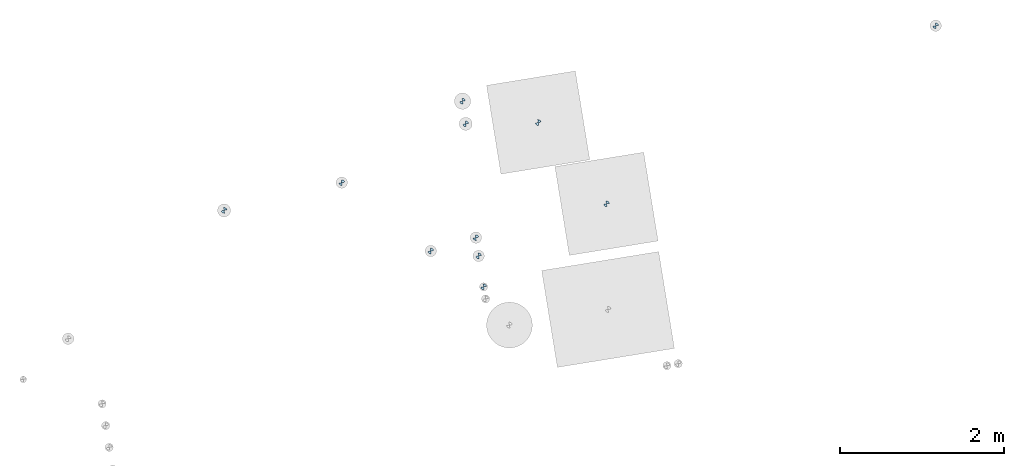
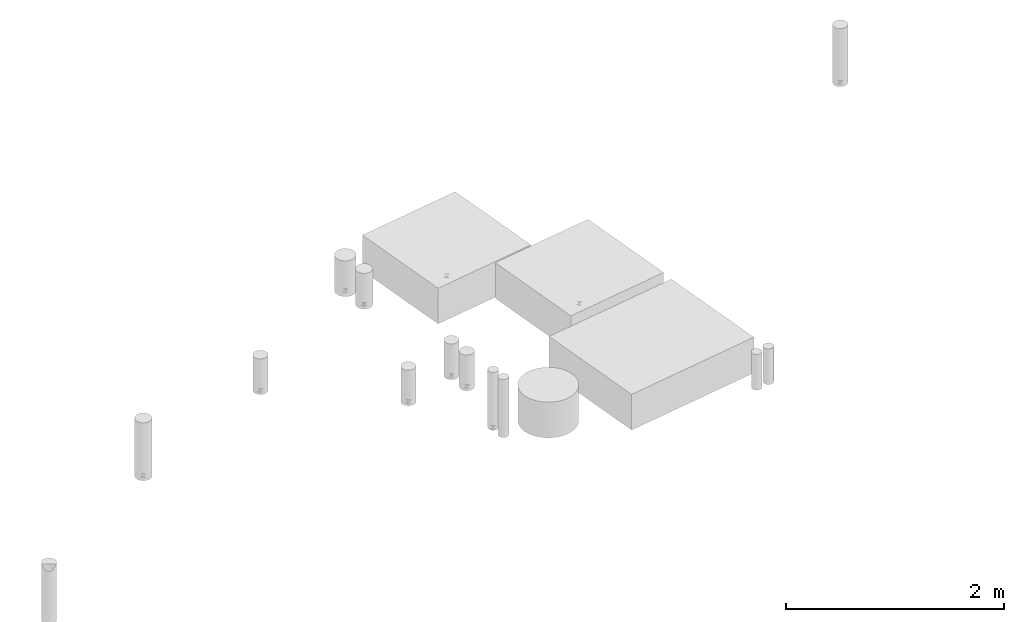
# One storey, part 3 of 4: 11 slabs.
"""IFC2X3 building model written with IfcOpenShell, lengths in millimetres."""

from ifc_helpers import new_model, entity, si_unit, converted_unit, derived_unit, direction, frame, frame_2d, origin, origin_with_axes, place, context, subcontext, project, spatial, polyline, circle_curve, parameter, trimmed, segment, composite_curve, outline, extrude, material, type_object, element, save


model = new_model("IFC2X3")

# Units and contexts
model_context = context("Model", 3, precision=0.01, world=origin(), true_north=direction((6.12323399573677e-17, 1.0)))
plan_context = context("Plan", 3, precision=1e-05, world=origin_with_axes())
body_context = subcontext(model_context, "Body", "Model", "MODEL_VIEW")
ifc_project = project(units=[converted_unit("PLANEANGLEUNIT", "DEGREE", entity("IfcPositiveLengthMeasure", 0.0174532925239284), si_unit("PLANEANGLEUNIT", "RADIAN"), dimensions=[0, 0, 0, 0, 0, 0, 0]), si_unit("AREAUNIT", "SQUARE_METRE"), si_unit("LENGTHUNIT", "METRE", prefix="MILLI"), si_unit("MASSUNIT", "GRAM", prefix="KILO"), si_unit("POWERUNIT", "WATT"), si_unit("PRESSUREUNIT", "PASCAL", prefix="KILO"), si_unit("FORCEUNIT", "NEWTON", prefix="KILO"), si_unit("ELECTRICVOLTAGEUNIT", "VOLT"), si_unit("ELECTRICCURRENTUNIT", "AMPERE"), si_unit("THERMODYNAMICTEMPERATUREUNIT", "DEGREE_CELSIUS"), si_unit("TIMEUNIT", "SECOND"), si_unit("VOLUMEUNIT", "CUBIC_METRE"), derived_unit("LINEARVELOCITYUNIT", [(si_unit("LENGTHUNIT", "METRE"), 1), (si_unit("TIMEUNIT", "SECOND"), -1)]), derived_unit("VOLUMETRICFLOWRATEUNIT", [(si_unit("VOLUMEUNIT", "CUBIC_METRE"), 1), (si_unit("TIMEUNIT", "SECOND"), -1)]), derived_unit("THERMALTRANSMITTANCEUNIT", [(si_unit("POWERUNIT", "WATT"), 1), (si_unit("THERMODYNAMICTEMPERATUREUNIT", "KELVIN"), -1), (si_unit("AREAUNIT", "SQUARE_METRE"), -1)]), derived_unit("SOUNDPRESSUREUNIT", [(si_unit("PRESSUREUNIT", "PASCAL"), 1)])], contexts=[model_context, plan_context])

# Site, building, storey
site_placement = place(None, frame((-0.00071070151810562, 0.00438415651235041, 0.0), z_axis=(0.0, 0.0, 1.0), x_axis=(-0.160236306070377, 0.987078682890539, 0.0)))
site = spatial("IfcSite", under=ifc_project, at=site_placement, Name="Default", CompositionType="ELEMENT")
building_placement = place(site_placement, origin_with_axes())
building = spatial("IfcBuilding", under=site, at=building_placement, CompositionType="ELEMENT")
storey_placement = place(building_placement, frame((0.0, 0.0, 50999.9999999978), z_axis=(0.0, 0.0, 1.0), x_axis=(1.0, 0.0, 0.0)))
storey = spatial("IfcBuildingStorey", under=building, at=storey_placement, Name="Nivå D", CompositionType="ELEMENT", Elevation=50999.9999999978)

# Slabs
ifc_material = material(Name="Black")
slab_type_1 = type_object("IfcSlabType", Name="SurveyMarker:Custom", PredefinedType="BASESLAB", material=ifc_material)
slab_1_placement = place(storey_placement, origin_with_axes())
element("IfcSlab", 1, at=slab_1_placement, inside=storey, type_object=slab_type_1, Name="SurveyMarker:Custom", ObjectType="SurveyMarker:Custom", PredefinedType="BASESLAB", context=body_context, shape_type="SweptSolid", body=[
    extrude(outline(composite_curve([segment(polyline([(-11.6666666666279, -11.6666666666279), (23.3333333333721, -11.6666666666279)]), True, "CONTINUOUS"), segment(trimmed(circle_curve(frame_2d((-11.6666666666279, -11.6666666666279), x_axis=(0.0, 1.0)), 35.0), [parameter(269.999999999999)], [parameter(359.999999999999)], True, "PARAMETER"), True, "CONTINUOUS"), segment(polyline([(-11.6666666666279, 23.3333333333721), (-11.6666666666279, -11.6666666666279)]), True, "CONTINUOUS")], self_intersect=False)), frame((779155.626277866, -594790.854460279, -400.0), z_axis=(0.0, 0.0, 1.0), x_axis=(0.0, -1.0, 0.0)), (0.0, 0.0, 1.0), 0.799999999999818),
    extrude(outline(composite_curve([segment(polyline([(-11.6666666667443, -11.6666666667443), (23.3333333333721, -11.6666666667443)]), True, "CONTINUOUS"), segment(trimmed(circle_curve(frame_2d((-11.6666666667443, -11.6666666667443), x_axis=(0.0, 1.0)), 35.0), [parameter(269.999999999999)], [parameter(359.999999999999)], True, "PARAMETER"), True, "CONTINUOUS"), segment(polyline([(-11.6666666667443, 23.3333333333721), (-11.6666666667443, -11.6666666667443)]), True, "CONTINUOUS")], self_intersect=False)), frame((779132.292944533, -594767.521126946, -400.0), z_axis=(0.0, 0.0, 1.0), x_axis=(0.0, 1.0, 0.0)), (0.0, 0.0, 1.0), 0.799999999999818),
])
slab_2_placement = place(storey_placement, origin_with_axes())
element("IfcSlab", 2, at=slab_2_placement, inside=storey, type_object=slab_type_1, Name="SurveyMarker:Custom", ObjectType="SurveyMarker:Custom", PredefinedType="BASESLAB", context=body_context, shape_type="SweptSolid", body=[
    extrude(outline(composite_curve([segment(polyline([(-11.6666666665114, -11.6666666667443), (23.3333333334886, -11.6666666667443)]), True, "CONTINUOUS"), segment(trimmed(circle_curve(frame_2d((-11.6666666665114, -11.6666666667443), x_axis=(0.0, 1.0)), 35.0), [parameter(269.999999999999)], [parameter(359.999999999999)], True, "PARAMETER"), True, "CONTINUOUS"), segment(polyline([(-11.6666666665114, 23.3333333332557), (-11.6666666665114, -11.6666666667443)]), True, "CONTINUOUS")], self_intersect=False)), frame((777536.253455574, -594687.746670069, -400.0), z_axis=(0.0, 0.0, 1.0), x_axis=(0.0, -1.0, 0.0)), (0.0, 0.0, 1.0), 0.799999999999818),
    extrude(outline(composite_curve([segment(polyline([(-11.6666666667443, -11.6666666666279), (23.3333333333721, -11.6666666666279)]), True, "CONTINUOUS"), segment(trimmed(circle_curve(frame_2d((-11.6666666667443, -11.6666666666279), x_axis=(0.0, 1.0)), 35.0), [parameter(269.999999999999)], [parameter(359.999999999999)], True, "PARAMETER"), True, "CONTINUOUS"), segment(polyline([(-11.6666666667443, 23.3333333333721), (-11.6666666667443, -11.6666666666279)]), True, "CONTINUOUS")], self_intersect=False)), frame((777512.920122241, -594664.413336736, -400.0), z_axis=(0.0, 0.0, 1.0), x_axis=(0.0, 1.0, 0.0)), (0.0, 0.0, 1.0), 0.799999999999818),
])
slab_3_placement = place(storey_placement, origin_with_axes())
element("IfcSlab", 3, at=slab_3_placement, inside=storey, type_object=slab_type_1, Name="SurveyMarker:Custom", ObjectType="SurveyMarker:Custom", PredefinedType="BASESLAB", context=body_context, shape_type="SweptSolid", body=[
    extrude(outline(composite_curve([segment(polyline([(-11.6666666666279, -11.6666666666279), (23.3333333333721, -11.6666666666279)]), True, "CONTINUOUS"), segment(trimmed(circle_curve(frame_2d((-11.6666666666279, -11.6666666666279), x_axis=(0.0, 1.0)), 35.0), [parameter(269.999999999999)], [parameter(359.999999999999)], True, "PARAMETER"), True, "CONTINUOUS"), segment(polyline([(-11.6666666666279, 23.3333333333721), (-11.6666666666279, -11.6666666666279)]), True, "CONTINUOUS")], self_intersect=False)), frame((777762.527625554, -594690.493315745, -400.0), z_axis=(0.0, 0.0, 1.0), x_axis=(0.0, -1.0, 0.0)), (0.0, 0.0, 1.0), 0.799999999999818),
    extrude(outline(composite_curve([segment(polyline([(-11.6666666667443, -11.6666666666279), (23.3333333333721, -11.6666666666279)]), True, "CONTINUOUS"), segment(trimmed(circle_curve(frame_2d((-11.6666666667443, -11.6666666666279), x_axis=(0.0, 1.0)), 35.0), [parameter(269.999999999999)], [parameter(359.999999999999)], True, "PARAMETER"), True, "CONTINUOUS"), segment(polyline([(-11.6666666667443, 23.3333333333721), (-11.6666666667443, -11.6666666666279)]), True, "CONTINUOUS")], self_intersect=False)), frame((777739.19429222, -594667.159982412, -400.0), z_axis=(0.0, 0.0, 1.0), x_axis=(0.0, 1.0, 0.0)), (0.0, 0.0, 1.0), 0.799999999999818),
])
slab_4_placement = place(storey_placement, origin_with_axes())
element("IfcSlab", 4, at=slab_4_placement, inside=storey, type_object=slab_type_1, Name="SurveyMarker:Custom", ObjectType="SurveyMarker:Custom", PredefinedType="BASESLAB", context=body_context, shape_type="SweptSolid", body=[
    extrude(outline(composite_curve([segment(polyline([(-11.6666666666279, -11.6666666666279), (23.3333333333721, -11.6666666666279)]), True, "CONTINUOUS"), segment(trimmed(circle_curve(frame_2d((-11.6666666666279, -11.6666666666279), x_axis=(0.0, 1.0)), 35.0), [parameter(269.999999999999)], [parameter(359.999999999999)], True, "PARAMETER"), True, "CONTINUOUS"), segment(polyline([(-11.6666666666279, 23.3333333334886), (-11.6666666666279, -11.6666666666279)]), True, "CONTINUOUS")], self_intersect=False)), frame((778689.286310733, -593179.647165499, -400.0), z_axis=(0.0, 0.0, 1.0), x_axis=(0.0, -1.0, 0.0)), (0.0, 0.0, 1.0), 0.799999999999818),
    extrude(outline(composite_curve([segment(polyline([(-11.6666666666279, -11.6666666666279), (23.3333333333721, -11.6666666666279)]), True, "CONTINUOUS"), segment(trimmed(circle_curve(frame_2d((-11.6666666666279, -11.6666666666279), x_axis=(0.0, 1.0)), 35.0), [parameter(269.999999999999)], [parameter(359.999999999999)], True, "PARAMETER"), True, "CONTINUOUS"), segment(polyline([(-11.6666666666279, 23.3333333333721), (-11.6666666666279, -11.6666666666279)]), True, "CONTINUOUS")], self_intersect=False)), frame((778665.9529774, -593156.313832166, -400.0), z_axis=(0.0, 0.0, 1.0), x_axis=(0.0, 1.0, 0.0)), (0.0, 0.0, 1.0), 0.799999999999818),
])
slab_5_placement = place(storey_placement, origin_with_axes())
element("IfcSlab", 5, at=slab_5_placement, inside=storey, type_object=slab_type_1, Name="SurveyMarker:Custom", ObjectType="SurveyMarker:Custom", PredefinedType="BASESLAB", context=body_context, shape_type="SweptSolid", body=[
    extrude(outline(composite_curve([segment(polyline([(-11.6666666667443, -11.6666666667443), (23.3333333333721, -11.6666666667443)]), True, "CONTINUOUS"), segment(trimmed(circle_curve(frame_2d((-11.6666666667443, -11.6666666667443), x_axis=(0.0, 1.0)), 35.0), [parameter(269.999999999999)], [parameter(359.999999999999)], True, "PARAMETER"), True, "CONTINUOUS"), segment(polyline([(-11.6666666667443, 23.3333333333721), (-11.6666666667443, -11.6666666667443)]), True, "CONTINUOUS")], self_intersect=False)), frame((779435.564173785, -594796.751444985, -400.0), z_axis=(0.0, 0.0, 1.0), x_axis=(0.0, -1.0, 0.0)), (0.0, 0.0, 1.0), 0.799999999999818),
    extrude(outline(composite_curve([segment(polyline([(-11.6666666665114, -11.6666666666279), (23.3333333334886, -11.6666666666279)]), True, "CONTINUOUS"), segment(trimmed(circle_curve(frame_2d((-11.6666666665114, -11.6666666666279), x_axis=(0.0, 1.0)), 35.0), [parameter(269.999999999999)], [parameter(359.999999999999)], True, "PARAMETER"), True, "CONTINUOUS"), segment(polyline([(-11.6666666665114, 23.3333333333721), (-11.6666666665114, -11.6666666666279)]), True, "CONTINUOUS")], self_intersect=False)), frame((779412.230840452, -594773.418111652, -400.0), z_axis=(0.0, 0.0, 1.0), x_axis=(0.0, 1.0, 0.0)), (0.0, 0.0, 1.0), 0.799999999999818),
])
slab_6_placement = place(storey_placement, origin_with_axes())
element("IfcSlab", 6, at=slab_6_placement, inside=storey, type_object=slab_type_1, Name="SurveyMarker:Custom", ObjectType="SurveyMarker:Custom", PredefinedType="BASESLAB", context=body_context, shape_type="SweptSolid", body=[
    extrude(outline(composite_curve([segment(polyline([(-11.6666666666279, -11.6666666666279), (23.3333333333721, -11.6666666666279)]), True, "CONTINUOUS"), segment(trimmed(circle_curve(frame_2d((-11.6666666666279, -11.6666666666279), x_axis=(0.0, 1.0)), 35.0), [parameter(269.999999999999)], [parameter(359.999999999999)], True, "PARAMETER"), True, "CONTINUOUS"), segment(polyline([(-11.6666666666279, 23.3333333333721), (-11.6666666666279, -11.6666666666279)]), True, "CONTINUOUS")], self_intersect=False)), frame((778584.286310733, -591704.375782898, -650.0), z_axis=(0.0, 0.0, 1.0), x_axis=(0.0, -1.0, 0.0)), (0.0, 0.0, 1.0), 0.799999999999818),
    extrude(outline(composite_curve([segment(polyline([(-11.6666666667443, -11.6666666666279), (23.3333333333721, -11.6666666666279)]), True, "CONTINUOUS"), segment(trimmed(circle_curve(frame_2d((-11.6666666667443, -11.6666666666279), x_axis=(0.0, 1.0)), 35.0), [parameter(269.999999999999)], [parameter(359.999999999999)], True, "PARAMETER"), True, "CONTINUOUS"), segment(polyline([(-11.6666666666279, 23.3333333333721), (-11.6666666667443, -11.6666666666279)]), True, "CONTINUOUS")], self_intersect=False)), frame((778560.9529774, -591681.042449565, -650.0), z_axis=(0.0, 0.0, 1.0), x_axis=(0.0, 1.0, 0.0)), (0.0, 0.0, 1.0), 0.799999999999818),
])
slab_7_placement = place(storey_placement, origin_with_axes())
element("IfcSlab", 7, at=slab_7_placement, inside=storey, type_object=slab_type_1, Name="SurveyMarker:Custom", ObjectType="SurveyMarker:Custom", PredefinedType="BASESLAB", context=body_context, shape_type="SweptSolid", body=[
    extrude(outline(composite_curve([segment(polyline([(-11.6666666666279, -11.6666666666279), (23.3333333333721, -11.6666666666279)]), True, "CONTINUOUS"), segment(trimmed(circle_curve(frame_2d((-11.6666666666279, -11.6666666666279), x_axis=(0.0, 1.0)), 35.0), [parameter(269.999999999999)], [parameter(359.999999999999)], True, "PARAMETER"), True, "CONTINUOUS"), segment(polyline([(-11.6666666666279, 23.3333333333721), (-11.6666666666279, -11.6666666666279)]), True, "CONTINUOUS")], self_intersect=False)), frame((777689.286310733, -594119.647165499, -400.0), z_axis=(0.0, 0.0, 1.0), x_axis=(0.0, -1.0, 0.0)), (0.0, 0.0, 1.0), 0.799999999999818),
    extrude(outline(composite_curve([segment(polyline([(-11.6666666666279, -11.6666666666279), (23.3333333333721, -11.6666666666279)]), True, "CONTINUOUS"), segment(trimmed(circle_curve(frame_2d((-11.6666666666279, -11.6666666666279), x_axis=(0.0, 1.0)), 35.0), [parameter(269.999999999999)], [parameter(359.999999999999)], True, "PARAMETER"), True, "CONTINUOUS"), segment(polyline([(-11.6666666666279, 23.3333333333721), (-11.6666666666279, -11.6666666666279)]), True, "CONTINUOUS")], self_intersect=False)), frame((777665.9529774, -594096.313832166, -400.0), z_axis=(0.0, 0.0, 1.0), x_axis=(0.0, 1.0, 0.0)), (0.0, 0.0, 1.0), 0.799999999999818),
])
slab_8_placement = place(storey_placement, origin_with_axes())
element("IfcSlab", 8, at=slab_8_placement, inside=storey, type_object=slab_type_1, Name="SurveyMarker:Custom", ObjectType="SurveyMarker:Custom", PredefinedType="BASESLAB", context=body_context, shape_type="SweptSolid", body=[
    extrude(outline(composite_curve([segment(polyline([(-11.6666666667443, -11.6666666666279), (23.3333333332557, -11.6666666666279)]), True, "CONTINUOUS"), segment(trimmed(circle_curve(frame_2d((-11.6666666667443, -11.6666666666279), x_axis=(0.0, 1.0)), 35.0), [parameter(269.999999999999)], [parameter(359.999999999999)], True, "PARAMETER"), True, "CONTINUOUS"), segment(polyline([(-11.6666666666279, 23.3333333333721), (-11.6666666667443, -11.6666666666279)]), True, "CONTINUOUS")], self_intersect=False)), frame((779419.227272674, -600655.475817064, -650.0), z_axis=(0.0, 0.0, 1.0), x_axis=(0.0, -1.0, 0.0)), (0.0, 0.0, 1.0), 0.799999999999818),
    extrude(outline(composite_curve([segment(polyline([(-11.6666666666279, -11.6666666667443), (23.3333333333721, -11.6666666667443)]), True, "CONTINUOUS"), segment(trimmed(circle_curve(frame_2d((-11.6666666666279, -11.6666666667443), x_axis=(0.0, 1.0)), 35.0), [parameter(269.999999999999)], [parameter(359.999999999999)], True, "PARAMETER"), True, "CONTINUOUS"), segment(polyline([(-11.6666666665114, 23.3333333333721), (-11.6666666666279, -11.6666666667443)]), True, "CONTINUOUS")], self_intersect=False)), frame((779395.893939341, -600632.142483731, -650.0), z_axis=(0.0, 0.0, 1.0), x_axis=(0.0, 1.0, 0.0)), (0.0, 0.0, 1.0), 0.799999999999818),
])
slab_9_placement = place(storey_placement, origin_with_axes())
element("IfcSlab", 9, at=slab_9_placement, inside=storey, type_object=slab_type_1, Name="SurveyMarker:Custom", ObjectType="SurveyMarker:Custom", PredefinedType="BASESLAB", context=body_context, shape_type="SweptSolid", body=[
    extrude(outline(composite_curve([segment(polyline([(-11.6666666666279, -11.6666666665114), (23.3333333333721, -11.6666666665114)]), True, "CONTINUOUS"), segment(trimmed(circle_curve(frame_2d((-11.6666666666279, -11.6666666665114), x_axis=(0.0, 1.0)), 35.0), [parameter(269.999999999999)], [parameter(359.999999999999)], True, "PARAMETER"), True, "CONTINUOUS"), segment(polyline([(-11.6666666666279, 23.3333333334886), (-11.6666666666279, -11.6666666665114)]), True, "CONTINUOUS")], self_intersect=False)), frame((777153.933541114, -594687.772969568, -650.0), z_axis=(0.0, 0.0, 1.0), x_axis=(0.0, -1.0, 0.0)), (0.0, 0.0, 1.0), 0.799999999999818),
    extrude(outline(composite_curve([segment(polyline([(-11.6666666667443, -11.6666666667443), (23.3333333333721, -11.6666666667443)]), True, "CONTINUOUS"), segment(trimmed(circle_curve(frame_2d((-11.6666666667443, -11.6666666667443), x_axis=(0.0, 1.0)), 35.0), [parameter(269.999999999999)], [parameter(359.999999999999)], True, "PARAMETER"), True, "CONTINUOUS"), segment(polyline([(-11.6666666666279, 23.3333333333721), (-11.6666666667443, -11.6666666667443)]), True, "CONTINUOUS")], self_intersect=False)), frame((777130.60020778, -594664.439636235, -650.0), z_axis=(0.0, 0.0, 1.0), x_axis=(0.0, 1.0, 0.0)), (0.0, 0.0, 1.0), 0.799999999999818),
])
slab_type_2 = type_object("IfcSlabType", Name="SurveyMarker rektangulær:Custom", PredefinedType="BASESLAB", material=ifc_material)
slab_10_placement = place(storey_placement, origin_with_axes())
element("IfcSlab", 10, at=slab_10_placement, inside=storey, type_object=slab_type_2, Name="SurveyMarker rektangulær:Custom", ObjectType="SurveyMarker rektangulær:Custom", PredefinedType="BASESLAB", context=body_context, shape_type="SweptSolid", body=[
    extrude(outline(composite_curve([segment(polyline([(-11.6666666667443, -11.6666666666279), (23.3333333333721, -11.6666666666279)]), True, "CONTINUOUS"), segment(trimmed(circle_curve(frame_2d((-11.6666666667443, -11.6666666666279), x_axis=(0.0, 1.0)), 35.0), [parameter(269.999999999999)], [parameter(359.999999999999)], True, "PARAMETER"), True, "CONTINUOUS"), segment(polyline([(-11.6666666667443, 23.3333333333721), (-11.6666666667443, -11.6666666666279)]), True, "CONTINUOUS")], self_intersect=False)), frame((777914.676336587, -596333.199681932, -400.0), z_axis=(0.0, 0.0, 1.0), x_axis=(0.0, -1.0, 0.0)), (0.0, 0.0, 1.0), 0.799999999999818),
    extrude(outline(composite_curve([segment(polyline([(-11.6666666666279, -11.6666666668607), (23.3333333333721, -11.6666666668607)]), True, "CONTINUOUS"), segment(trimmed(circle_curve(frame_2d((-11.6666666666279, -11.6666666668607), x_axis=(0.0, 1.0)), 35.0), [parameter(269.999999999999)], [parameter(359.999999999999)], True, "PARAMETER"), True, "CONTINUOUS"), segment(polyline([(-11.6666666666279, 23.3333333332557), (-11.6666666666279, -11.6666666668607)]), True, "CONTINUOUS")], self_intersect=False)), frame((777891.343003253, -596309.866348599, -400.0), z_axis=(0.0, 0.0, 1.0), x_axis=(0.0, 1.0, 0.0)), (0.0, 0.0, 1.0), 0.799999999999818),
])
slab_11_placement = place(storey_placement, origin_with_axes())
element("IfcSlab", 11, at=slab_11_placement, inside=storey, type_object=slab_type_2, Name="SurveyMarker rektangulær:Custom", ObjectType="SurveyMarker rektangulær:Custom", PredefinedType="BASESLAB", context=body_context, shape_type="SweptSolid", body=[
    extrude(outline(composite_curve([segment(polyline([(-11.6666666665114, -11.6666666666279), (23.3333333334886, -11.6666666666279)]), True, "CONTINUOUS"), segment(trimmed(circle_curve(frame_2d((-11.6666666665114, -11.6666666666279), x_axis=(0.0, 1.0)), 35.0), [parameter(269.999999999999)], [parameter(359.999999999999)], True, "PARAMETER"), True, "CONTINUOUS"), segment(polyline([(-11.6666666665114, 23.3333333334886), (-11.6666666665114, -11.6666666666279)]), True, "CONTINUOUS")], self_intersect=False)), frame((779029.40630046, -595667.334643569, -400.0), z_axis=(0.0, 0.0, 1.0), x_axis=(0.0, -1.0, 0.0)), (0.0, 0.0, 1.0), 0.799999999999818),
    extrude(outline(composite_curve([segment(polyline([(-11.6666666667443, -11.6666666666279), (23.3333333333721, -11.6666666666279)]), True, "CONTINUOUS"), segment(trimmed(circle_curve(frame_2d((-11.6666666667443, -11.6666666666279), x_axis=(0.0, 1.0)), 35.0), [parameter(269.999999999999)], [parameter(359.999999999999)], True, "PARAMETER"), True, "CONTINUOUS"), segment(polyline([(-11.6666666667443, 23.3333333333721), (-11.6666666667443, -11.6666666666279)]), True, "CONTINUOUS")], self_intersect=False)), frame((779006.072967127, -595644.001310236, -400.0), z_axis=(0.0, 0.0, 1.0), x_axis=(0.0, 1.0, 0.0)), (0.0, 0.0, 1.0), 0.799999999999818),
])

save(model, "model.ifc")
